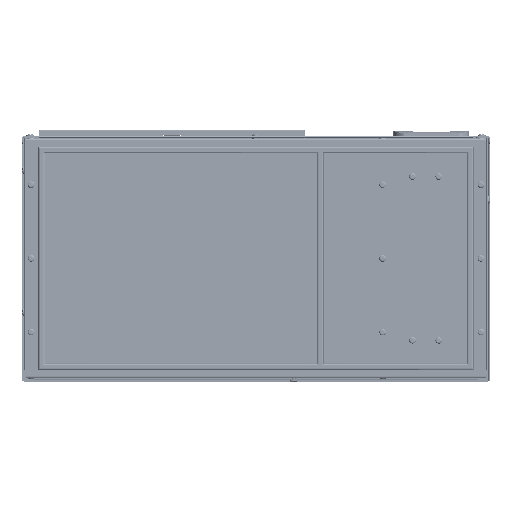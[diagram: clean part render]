
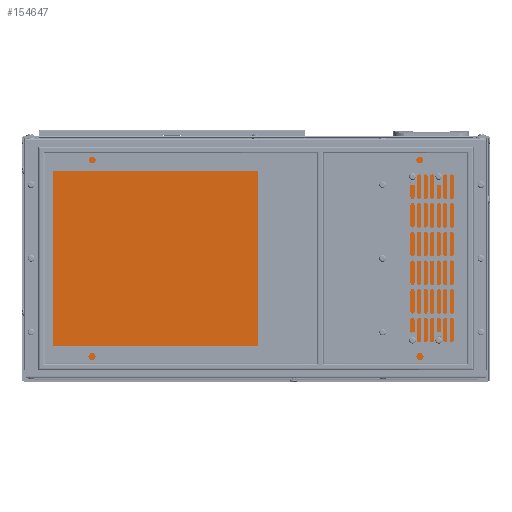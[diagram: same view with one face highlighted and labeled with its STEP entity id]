
A CAD part, front view. The second image highlights one B-rep face of the part: STEP entity #154647.
In plain terms, the highlighted planar face has unit normal (0, -1, 0).
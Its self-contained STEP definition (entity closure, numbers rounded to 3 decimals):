
#13282 = EDGE_CURVE ( 'NONE', #81925, #178957, #223782, .T. ) ;
#33226 = LINE ( 'NONE', #160703, #248769 ) ;
#39711 = EDGE_CURVE ( 'NONE', #177595, #81925, #33226, .T. ) ;
#47476 = AXIS2_PLACEMENT_3D ( 'NONE', #193642, #82984, #279717 ) ;
#62804 = DIRECTION ( 'NONE',  ( -1., 0., 0. ) ) ;
#79513 = VECTOR ( 'NONE', #168143, 1000. ) ;
#81925 = VERTEX_POINT ( 'NONE', #118102 ) ;
#82984 = DIRECTION ( 'NONE',  ( 0., -1., 0. ) ) ;
#83373 = CARTESIAN_POINT ( 'NONE',  ( -485.633, -131.154, -475.919 ) ) ;
#113245 = LINE ( 'NONE', #259494, #328864 ) ;
#118102 = CARTESIAN_POINT ( 'NONE',  ( 75.367, -131.154, -475.919 ) ) ;
#149671 = EDGE_LOOP ( 'NONE', ( #258085, #326784, #264076, #359329 ) ) ;
#154301 = LINE ( 'NONE', #83373, #79513 ) ;
#154647 = ADVANCED_FACE ( 'NONE', ( #254127 ), #223141, .T. ) ;
#160703 = CARTESIAN_POINT ( 'NONE',  ( -485.633, -131.154, -475.919 ) ) ;
#168143 = DIRECTION ( 'NONE',  ( 0., 0., 1. ) ) ;
#177595 = VERTEX_POINT ( 'NONE', #198434 ) ;
#178957 = VERTEX_POINT ( 'NONE', #286164 ) ;
#193642 = CARTESIAN_POINT ( 'NONE',  ( 0., -131.154, 0. ) ) ;
#197166 = EDGE_CURVE ( 'NONE', #328557, #177595, #154301, .T. ) ;
#198434 = CARTESIAN_POINT ( 'NONE',  ( -485.633, -131.154, -475.919 ) ) ;
#223141 = PLANE ( 'NONE',  #47476 ) ;
#223782 = LINE ( 'NONE', #273728, #364683 ) ;
#248769 = VECTOR ( 'NONE', #329260, 1000. ) ;
#254127 = FACE_OUTER_BOUND ( 'NONE', #149671, .T. ) ;
#258085 = ORIENTED_EDGE ( 'NONE', *, *, #197166, .F. ) ;
#259494 = CARTESIAN_POINT ( 'NONE',  ( -485.633, -131.154, -763.919 ) ) ;
#264076 = ORIENTED_EDGE ( 'NONE', *, *, #13282, .F. ) ;
#273728 = CARTESIAN_POINT ( 'NONE',  ( 75.367, -131.154, -475.919 ) ) ;
#279717 = DIRECTION ( 'NONE',  ( 0., 0., -1. ) ) ;
#286164 = CARTESIAN_POINT ( 'NONE',  ( 75.367, -131.154, -763.919 ) ) ;
#294253 = EDGE_CURVE ( 'NONE', #178957, #328557, #113245, .T. ) ;
#302143 = DIRECTION ( 'NONE',  ( 0., 0., -1. ) ) ;
#304930 = CARTESIAN_POINT ( 'NONE',  ( -485.633, -131.154, -763.919 ) ) ;
#326784 = ORIENTED_EDGE ( 'NONE', *, *, #294253, .F. ) ;
#328557 = VERTEX_POINT ( 'NONE', #304930 ) ;
#328864 = VECTOR ( 'NONE', #62804, 1000. ) ;
#329260 = DIRECTION ( 'NONE',  ( 1., 0., 0. ) ) ;
#359329 = ORIENTED_EDGE ( 'NONE', *, *, #39711, .F. ) ;
#364683 = VECTOR ( 'NONE', #302143, 1000. ) ;
